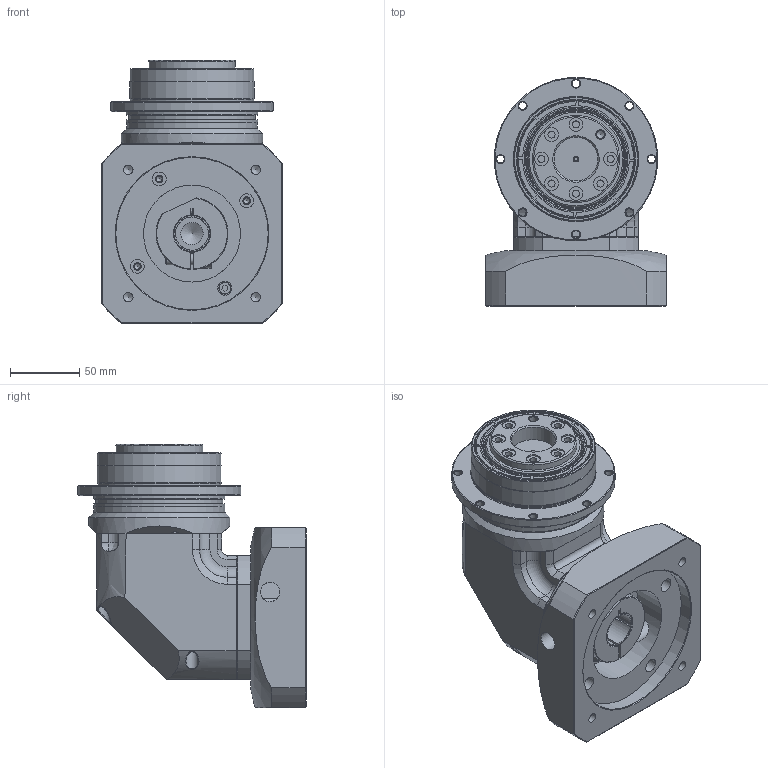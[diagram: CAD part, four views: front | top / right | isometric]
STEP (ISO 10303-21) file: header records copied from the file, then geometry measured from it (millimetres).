
FILE_DESCRIPTION(/* description */ (''),/* implementation_level */ '2;1');
FILE_NAME(/* name */ 'TDR090-L1-24-110-130-M8-61-10.stp',/* time_stamp */ '2023-09-01T08:20:28+08:00',/* author */ (''),/* organization */ (''),/* preprocessor_version */ 'ST-DEVELOPER v16',/* originating_system */ 'SIEMENS PLM Software NX 10.0',/* authorisation */ '');
FILE_SCHEMA (('CONFIG_CONTROL_DESIGN'));
Length unit declared in the file: millimetre
Products named in the file (1): TDR090-L1-24-110-130-M8-61-10_stp
Bounding box: 130 x 164.78 x 190 mm (x, y, z)
Volume: 1654989.6 mm3; surface area: 239910.5 mm2
Topology: 11 solids, 15 shells, 694 faces, 1610 edges, 1022 vertices
Faces by surface type: plane 276, cylinder 229, cone 138, torus 36, bspline 15
Full cylindrical faces by diameter (mm): 2.5 x1, 4.2 x16, 5 x1, 5.1 x7, 5.5 x24, 6 x1, 6.8 x5, 8 x1, 8.5 x2, 9 x4, 9.5 x8, 10 x11, 13 x2, 13.5 x1, 14 x2, 24 x1, 28.6 x1, 29.2 x1, 30 x2, 31.5 x1, 33 x1, 33.54 x1, 34.6 x1, 41 x1, 43 x1, 45 x2, 62 x2, 63 x1, 66 x1, 69.5 x1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
Entity records: 19732 total; most frequent: CARTESIAN_POINT 4919, DIRECTION 3170, ORIENTED_EDGE 2576, AXIS2_PLACEMENT_3D 1342, EDGE_CURVE 1288, EDGE_LOOP 1078, VERTEX_POINT 970, FACE_BOUND 736
